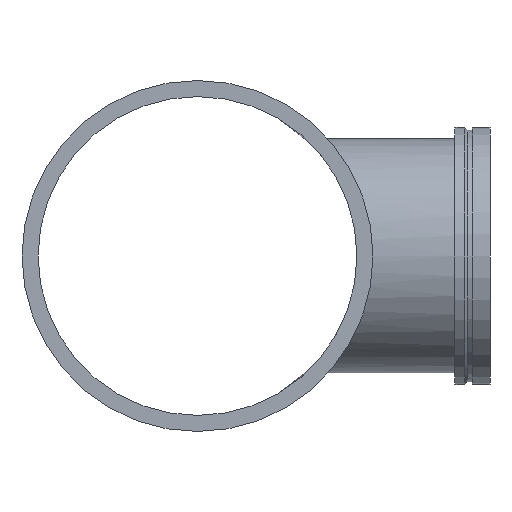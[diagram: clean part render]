
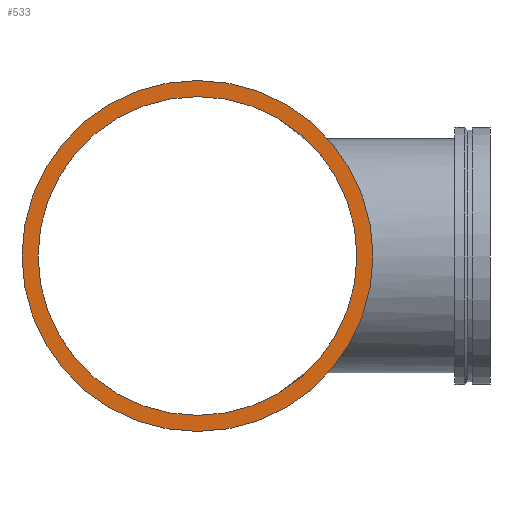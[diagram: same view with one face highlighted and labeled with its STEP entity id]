
A CAD part, left-side view. The second image highlights one B-rep face of the part: STEP entity #533.
In plain terms, the highlighted planar face has unit normal (-1, 0, 0).
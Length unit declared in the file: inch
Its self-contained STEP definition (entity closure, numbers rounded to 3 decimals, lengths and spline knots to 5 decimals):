
#58=FACE_BOUND('',#128,.T.);
#67=PLANE('',#626);
#92=FACE_OUTER_BOUND('',#127,.T.);
#127=EDGE_LOOP('',(#465,#466));
#128=EDGE_LOOP('',(#467,#468));
#151=CIRCLE('',#587,15.);
#152=CIRCLE('',#588,15.);
#175=CIRCLE('',#624,13.625);
#176=CIRCLE('',#625,13.625);
#239=VERTEX_POINT('',#1137);
#240=VERTEX_POINT('',#1139);
#263=VERTEX_POINT('',#1206);
#264=VERTEX_POINT('',#1208);
#299=EDGE_CURVE('',#239,#240,#151,.T.);
#300=EDGE_CURVE('',#240,#239,#152,.T.);
#331=EDGE_CURVE('',#264,#263,#175,.T.);
#332=EDGE_CURVE('',#263,#264,#176,.T.);
#465=ORIENTED_EDGE('',*,*,#300,.F.);
#466=ORIENTED_EDGE('',*,*,#299,.F.);
#467=ORIENTED_EDGE('',*,*,#331,.T.);
#468=ORIENTED_EDGE('',*,*,#332,.T.);
#533=ADVANCED_FACE('',(#92,#58),#67,.T.);
#587=AXIS2_PLACEMENT_3D('',#1140,#716,#717);
#588=AXIS2_PLACEMENT_3D('',#1141,#718,#719);
#624=AXIS2_PLACEMENT_3D('',#1209,#798,#799);
#625=AXIS2_PLACEMENT_3D('',#1210,#800,#801);
#626=AXIS2_PLACEMENT_3D('',#1211,#802,#803);
#716=DIRECTION('center_axis',(1.,0.,0.));
#717=DIRECTION('ref_axis',(0.,0.,1.));
#718=DIRECTION('center_axis',(1.,0.,0.));
#719=DIRECTION('ref_axis',(0.,0.,1.));
#798=DIRECTION('center_axis',(1.,0.,0.));
#799=DIRECTION('ref_axis',(0.,0.,1.));
#800=DIRECTION('center_axis',(1.,0.,0.));
#801=DIRECTION('ref_axis',(0.,0.,1.));
#802=DIRECTION('center_axis',(-1.,0.,0.));
#803=DIRECTION('ref_axis',(0.,0.,-1.));
#1137=CARTESIAN_POINT('',(-26.5,15.,0.));
#1139=CARTESIAN_POINT('',(-26.5,-15.,0.));
#1140=CARTESIAN_POINT('Origin',(-26.5,0.,0.));
#1141=CARTESIAN_POINT('Origin',(-26.5,0.,0.));
#1206=CARTESIAN_POINT('',(-26.5,13.625,0.));
#1208=CARTESIAN_POINT('',(-26.5,-13.625,0.));
#1209=CARTESIAN_POINT('Origin',(-26.5,0.,0.));
#1210=CARTESIAN_POINT('Origin',(-26.5,0.,0.));
#1211=CARTESIAN_POINT('Origin',(-26.5,-15.,0.));
